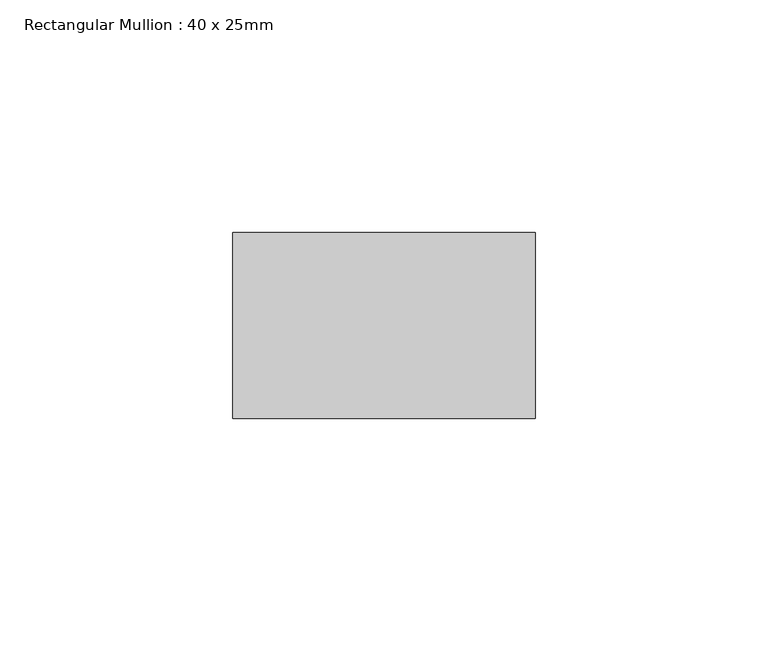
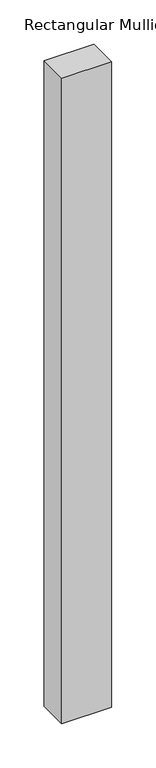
"""IFC4 building model written with IfcOpenShell, lengths in millimetres: member geometry, Rectangular Mullion : 40 x 25mm."""

from ifc_helpers import new_model, si_unit, frame, origin, place, context, project, spatial, polyline, outline, extrude, source, transform, mapped, element, save


def rectangular_mullion_40_x_25mm_455816f1(model_context):
    return source(origin(), model_context, "Body", "SweptSolid", [
        extrude(outline(polyline([(40.0, -20.0), (40.0, -60.0), (-25.0, -60.0), (-25.0, -20.0), (40.0, -20.0)])), frame((0.0, 0.0, -890.0), z_axis=(0.0, 0.0, 1.0), x_axis=(1.0, 0.0, 0.0)), (0.0, 0.0, 1.0), 890.0),
    ])


if __name__ == "__main__":
    model = new_model("IFC4")
    model_context = context("Model", 3, world=origin())
    ifc_project = project(units=[si_unit("LENGTHUNIT", "METRE", prefix="MILLI")], contexts=[model_context])
    site = spatial("IfcSite", under=ifc_project)
    building = spatial("IfcBuilding", under=site)
    placement = place(None, origin())
    rectangular_mullion_40_x_25mm_shape = rectangular_mullion_40_x_25mm_455816f1(model_context)
    element("IfcMember", 1, ObjectType="Rectangular Mullion : 40 x 25mm", at=placement, inside=building, context=model_context, shape_type="MappedRepresentation", body=[
        mapped(rectangular_mullion_40_x_25mm_shape, transform((0.0, 0.0, 0.0), x_axis=(1.0, 0.0, 0.0), y_axis=(0.0, 1.0, 0.0), z_axis=(0.0, 0.0, 1.0))),
    ])
    save(model, "model.ifc")
